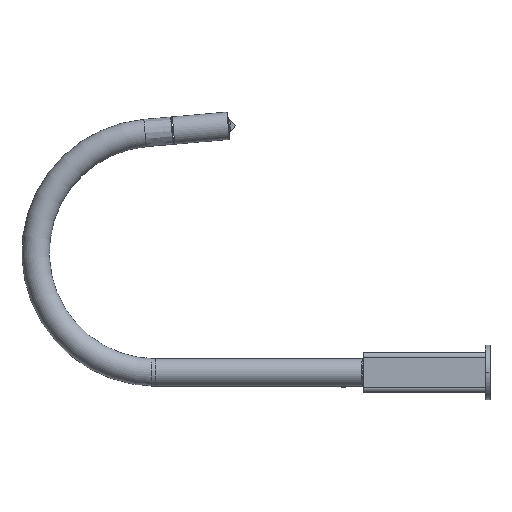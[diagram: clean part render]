
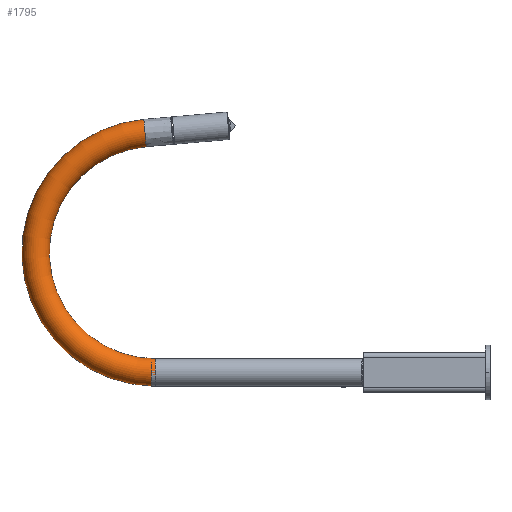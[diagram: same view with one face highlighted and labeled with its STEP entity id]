
A CAD part, left-side view. The second image highlights one B-rep face of the part: STEP entity #1795.
In plain terms, the highlighted toroidal (fillet/blend) face has major radius 105 mm and minor radius 12 mm.
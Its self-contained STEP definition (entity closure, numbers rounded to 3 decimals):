
#67=TOROIDAL_SURFACE('',#4694,105.,12.);
#413=CIRCLE('',#4690,12.);
#414=CIRCLE('',#4691,117.);
#415=CIRCLE('',#4692,12.);
#416=CIRCLE('',#4693,93.);
#1795=ADVANCED_FACE('',(#1962),#67,.T.);
#1962=FACE_OUTER_BOUND('',#2100,.T.);
#2100=EDGE_LOOP('',(#2903,#2904,#2905,#2906));
#2903=ORIENTED_EDGE('',*,*,#4111,.F.);
#2904=ORIENTED_EDGE('',*,*,#4112,.F.);
#2905=ORIENTED_EDGE('',*,*,#4113,.F.);
#2906=ORIENTED_EDGE('',*,*,#4114,.F.);
#3507=VERTEX_POINT('',#8121);
#3508=VERTEX_POINT('',#8122);
#3509=VERTEX_POINT('',#8124);
#3510=VERTEX_POINT('',#8126);
#4111=EDGE_CURVE('',#3507,#3508,#413,.T.);
#4112=EDGE_CURVE('',#3509,#3507,#414,.T.);
#4113=EDGE_CURVE('',#3510,#3509,#415,.T.);
#4114=EDGE_CURVE('',#3508,#3510,#416,.T.);
#4690=AXIS2_PLACEMENT_3D('',#8120,#5435,#5436);
#4691=AXIS2_PLACEMENT_3D('',#8123,#5437,#5438);
#4692=AXIS2_PLACEMENT_3D('',#8125,#5439,#5440);
#4693=AXIS2_PLACEMENT_3D('',#8127,#5441,#5442);
#4694=AXIS2_PLACEMENT_3D('',#8128,#5443,#5444);
#5435=DIRECTION('',(0.,-0.996,0.087));
#5436=DIRECTION('',(0.063,-0.087,-0.994));
#5437=DIRECTION('',(1.,0.,0.));
#5438=DIRECTION('',(0.,-0.061,-0.998));
#5439=DIRECTION('',(0.,-1.,0.));
#5440=DIRECTION('',(0.063,0.,0.998));
#5441=DIRECTION('',(-1.,0.,0.));
#5442=DIRECTION('',(0.,-0.061,-0.998));
#5443=DIRECTION('',(1.,0.,0.));
#5444=DIRECTION('',(0.,0.,-1.));
#8120=CARTESIAN_POINT('',(0.,297.951,209.6));
#8121=CARTESIAN_POINT('',(0.,298.997,221.555));
#8122=CARTESIAN_POINT('',(0.,296.905,197.646));
#8123=CARTESIAN_POINT('',(0.,288.8,105.));
#8124=CARTESIAN_POINT('',(0.,288.8,-12.));
#8125=CARTESIAN_POINT('',(0.,288.8,0.));
#8126=CARTESIAN_POINT('',(0.,288.8,12.));
#8127=CARTESIAN_POINT('',(0.,288.8,105.));
#8128=CARTESIAN_POINT('',(0.,288.8,105.));
